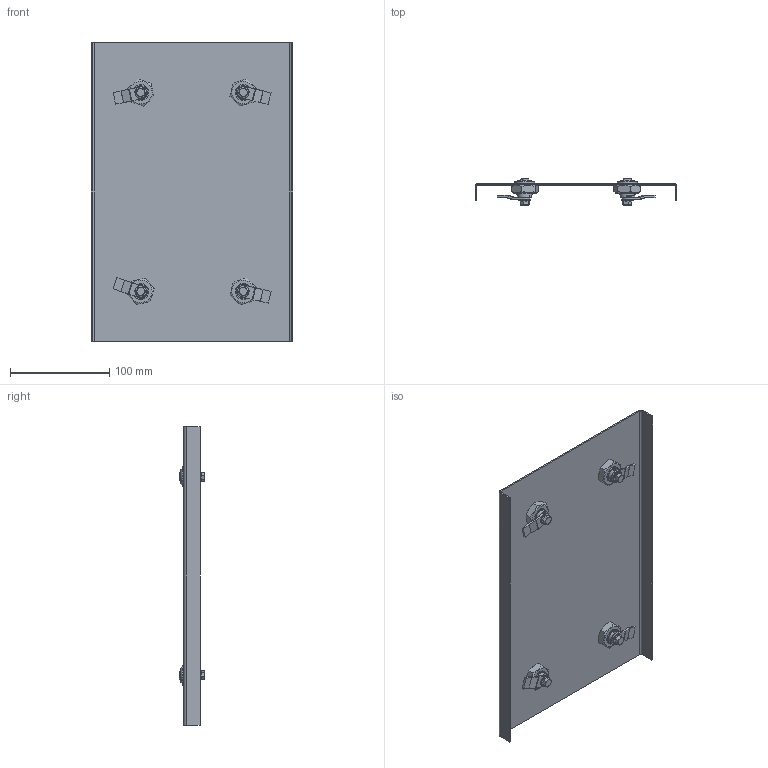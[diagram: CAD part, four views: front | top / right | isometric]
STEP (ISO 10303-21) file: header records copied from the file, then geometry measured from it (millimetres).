
FILE_DESCRIPTION (( 'STEP AP203' ), '1' );
FILE_NAME ('Ñáîðêà2.STEP', '2014-12-12T09:22:42', ( '' ), ( '' ), 'SwSTEP 2.0', 'SolidWorks 2014', '' );
FILE_SCHEMA (( 'CONFIG_CONTROL_DESIGN' ));
Length unit declared in the file: millimetre
Products named in the file (8): âòóëêà âíóòðÿíÿÿ; hex flange bolt_din_DIN 6921 - M5 x 10 x 10-C; Hex Nut 5929_gost1_ƒ ©ª  M16 ƒŽ‘’ 5929-70; 瀁僿鳻; 鐓膲僗闉; 栖闉罻2; êðûøêà  ñ ôèêñàòîðîì L-300 1,5_200; âòóëêà íàðóæíÿÿ
Assembly tree (10 placements, depth 3):
  栖闉罻2
    êðûøêà  ñ ôèêñàòîðîì L-300 1,5_200
    鐓膲僗闉  x4
      âòóëêà íàðóæíÿÿ
      âòóëêà âíóòðÿíÿÿ
      hex flange bolt_din_DIN 6921 - M5 x 10 x 10-C
      Hex Nut 5929_gost1_ƒ ©ª  M16 ƒŽ‘’ 5929-70
      瀁僿鳻
Bounding box: 203 x 26 x 300 mm (x, y, z)
Volume: 127824.7 mm3; surface area: 161784.2 mm2
Topology: 21 solids, 21 shells, 566 faces, 1276 edges, 780 vertices
Faces by surface type: plane 310, cylinder 152, cone 72, bspline 24, torus 8
Entity records: 6469 total; most frequent: CARTESIAN_POINT 1281, DIRECTION 915, ORIENTED_EDGE 862, EDGE_CURVE 431, AXIS2_PLACEMENT_3D 335, VERTEX_POINT 267, VECTOR 245, LINE 245
